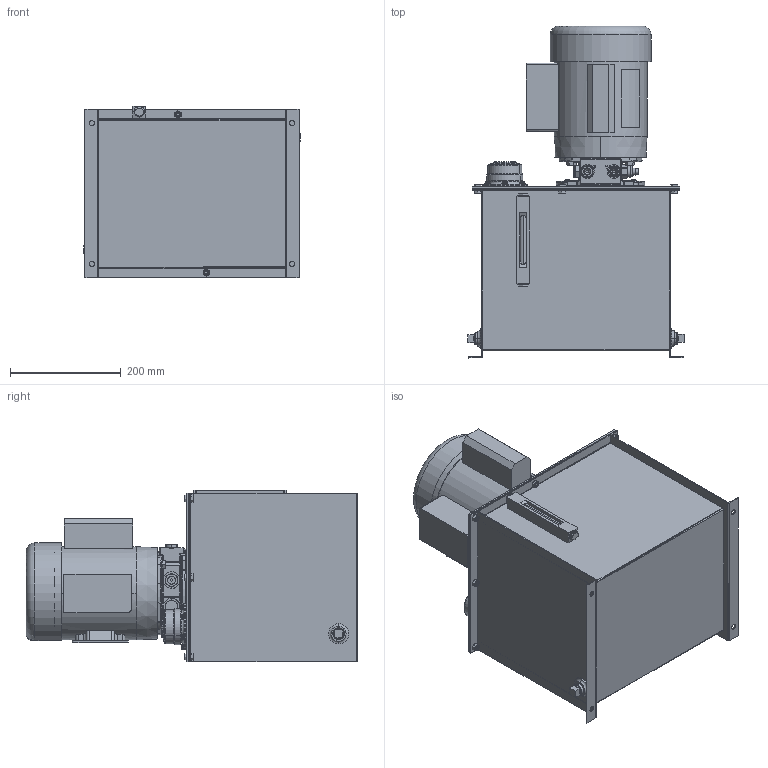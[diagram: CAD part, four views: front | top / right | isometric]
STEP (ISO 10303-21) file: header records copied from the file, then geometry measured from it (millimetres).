
FILE_DESCRIPTION((''),'2;1');
FILE_NAME('649516_SW0001','2016-03-14T',('GB10196'),('OILDYNE'),'PRO/ENGINEER BY PARAMETRIC TECHNOLOGY CORPORATION, 2009300','PRO/ENGINEER BY PARAMETRIC TECHNOLOGY CORPORATION, 2009300','');
FILE_SCHEMA(('CONFIG_CONTROL_DESIGN'));
Products named in the file (1): 649516_SW0001
Bounding box: 391.19 x 599.82 x 310.67 mm (x, y, z)
Surface area: 1617164.7 mm2 (no closed solid volume)
Topology: 0 solids, 123 shells, 1764 faces, 4970 edges, 3269 vertices
Faces by surface type: plane 539, cylinder 454, cone 399, bspline 221, torus 92, sphere 59
Entity records: 69595 total; most frequent: CARTESIAN_POINT 27100, DIRECTION 8447, ORIENTED_EDGE 8429, EDGE_CURVE 4965, AXIS2_PLACEMENT_3D 3341, VERTEX_POINT 3269, EDGE_LOOP 1953, CIRCLE 1798
